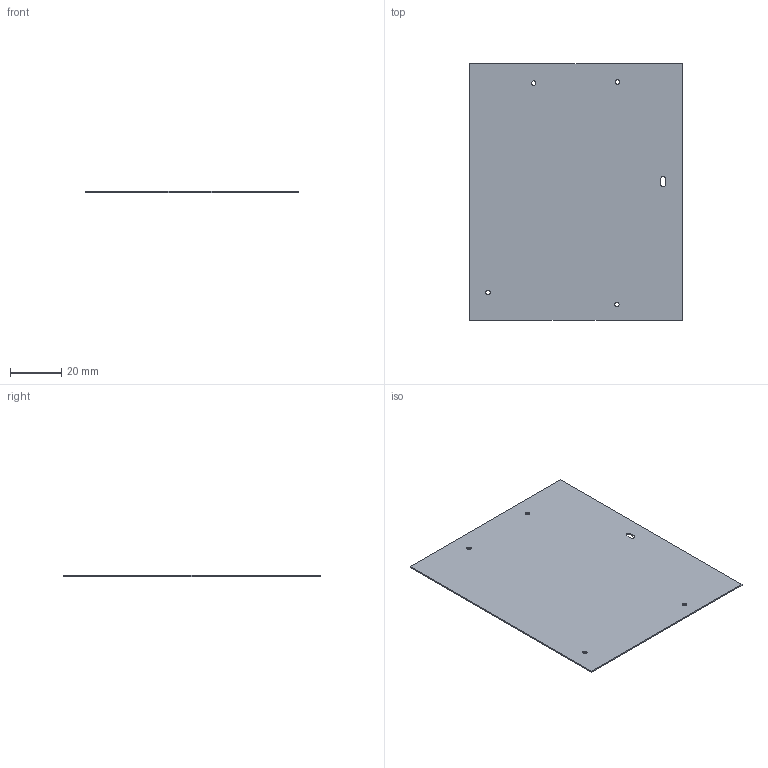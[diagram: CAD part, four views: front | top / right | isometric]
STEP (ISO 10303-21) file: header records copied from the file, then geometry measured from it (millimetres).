
FILE_DESCRIPTION((''),'2;1');
FILE_NAME('SOLAR_CELLS_BOARD_ANTENNA','2020-03-13T',('g0715'),(''),'PRO/ENGINEER BY PARAMETRIC TECHNOLOGY CORPORATION, 2014090','PRO/ENGINEER BY PARAMETRIC TECHNOLOGY CORPORATION, 2014090','');
FILE_SCHEMA(('CONFIG_CONTROL_DESIGN'));
Length unit declared in the file: millimetre
Products named in the file (1): SOLAR_CELLS_BOARD_ANTENNA
Bounding box: 83 x 100 x 0.5 mm (x, y, z)
Volume: 4141.9 mm3; surface area: 16766.4 mm2
Topology: 1 solids, 1 shells, 20 faces, 54 edges, 36 vertices
Faces by surface type: plane 10, cylinder 10
Entity records: 696 total; most frequent: DIRECTION 114, CARTESIAN_POINT 110, ORIENTED_EDGE 108, EDGE_CURVE 54, AXIS2_PLACEMENT_3D 40, VERTEX_POINT 36, VECTOR 34, LINE 34
